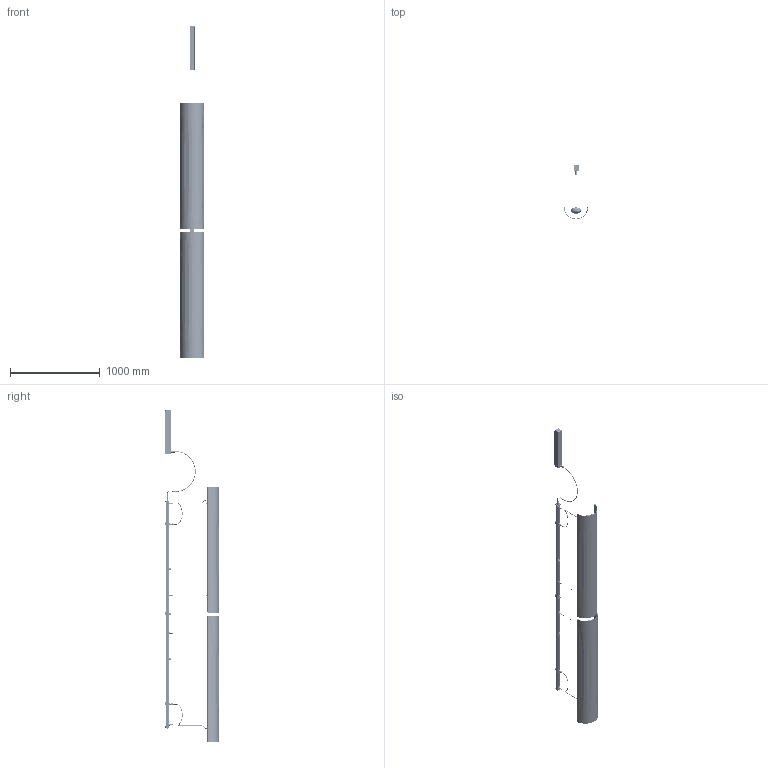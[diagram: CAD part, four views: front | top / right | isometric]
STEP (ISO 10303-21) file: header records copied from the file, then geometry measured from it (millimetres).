
FILE_DESCRIPTION (( 'STEP AP203' ), '1' );
FILE_NAME ('OUTRACK NANS BALIS PF-140-2L 13003104xxx.STEP', '2024-02-08T13:34:27', ( '' ), ( '' ), 'SwSTEP 2.0', 'SolidWorks 2019', '' );
FILE_SCHEMA (( 'CONFIG_CONTROL_DESIGN' ));
Length unit declared in the file: millimetre
Products named in the file (81): 000-D7984-48A2_DIN 7984 - M4 x 8 --- 5.9N; 000-133-001; 000-914-231; 000-AC130501_TRIAC - CE; 000-133-018; 000-SUB133-002; OUTRACK NANS BALIS PF-140-2L 13003104xxx; 000-133-038-12; 000-130_502; 000-SUB 133 SUSPENSION CABLE; 000-SUB 133 BARILLA CENTRAL; 000-130_522; 000-D913-310A2; 000-130_517; 000-D7991-310; 000-130 OUTRACK ENSAMBLAJE CONECTOR INFERIOR 20_09_22; 000-130_504; 000-133-027_CURVADA; 000-914-248; 000-SUB 133 BARILLA LATERAL; 000-D965-410A2; 000-130 OUTRACK TAPA ACOMETIDA 20_09_22; 000-AC130304_AC130304-CURVADO; 000-AC130302; 000-133-023; 000-130-115; 000-130_501; 000-133-025; 000-TUERCA M16_150 CONECTOR LLT; 000-130 OUTRACK TAPA ACOMETIDA 20_09_22_SIN PRENSA; 000-D7985-58; 000-133-026; 000-AC130201; 000-133-019; 000-133-035; 000-914-231HP; 000-133-024; 000-130_506; 000-133-017; 000-914-002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
Assembly tree (283 placements, depth 5):
  OUTRACK NANS BALIS PF-140-2L 13003104xxx
    000-AC130001
      000-130_522
      000-130 OUTRACK TAPA ACOMETIDA 20_09_22
        000-130_516
        000-914-231HP
        000-130_517
        000-D965-38_ISO 7046-1 - M3 x 5 - Z --- 5N  x4
      000-130 OUTRACK TAPA ACOMETIDA 20_09_22_SIN PRENSA
        000-130_516
        000-914-231HP
        000-130_517
        000-D965-38_ISO 7046-1 - M3 x 5 - Z --- 5N  x4
      000-130 OUTRACK ENSAMBLAJE CONECTOR INFERIOR 20_09_22
        000-130_504
        000-130_304
        000-914-231HP
        000-130-115
        000-D7991-310  x4
        000-914-258
      000-130 OUTRACK ENSAMBLAJE CONECTOR INFERIOR 20_09_22
        000-130_504
        000-130_304
        000-914-231HP
        000-130-115
        000-D7991-310  x4
        000-914-258
      000-130 OUTRACK ENSAMBLAJE CONECTOR INFERIOR 20_09_22
        000-130_504
        000-130_304
        000-914-231HP
        000-130-115
        000-D7991-310  x4
        000-914-258
      000-130 OUTRACK ENSAMBLAJE CONECTOR INFERIOR 20_09_22
        000-130_504
        000-130_304
        000-914-231HP
        000-D7991-310  x4
      000-130 OUTRACK ENSAMBLAJE CONECTOR INFERIOR 20_09_22
        000-130_504
        000-130_304
        000-914-231HP
        000-D7991-310  x4
      000-914-258  x2
      000-130-115  x2
    000-AC130304_AC130304-CURVADO
      000-914-231
      000-906.032 - AC130304-CURVADO
    000-AC130201
      000-130_502
      000-130_501
      000-130_503
      000-D912-330_A2_DIN 912 M3 x 30 --- 18N  x2
    000-AC130201
      000-130_502
      000-130_501
      000-130_503
      000-D912-330_A2_DIN 912 M3 x 30 --- 18N  x2
    000-AC130201
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Bounding box: 276.91 x 598.65 x 3689.97 mm (x, y, z)
Volume: 7380949.3 mm3; surface area: 6389553.3 mm2
Topology: 292 solids, 300 shells, 14038 faces, 35054 edges, 22392 vertices
Faces by surface type: plane 6119, cylinder 4447, cone 1626, bspline 1388, torus 370, sphere 88
Entity records: 195367 total; most frequent: CARTESIAN_POINT 77202, ORIENTED_EDGE 22170, DIRECTION 21045, EDGE_CURVE 11085, AXIS2_PLACEMENT_3D 7484, VERTEX_POINT 7221, LINE 6077, VECTOR 6077
